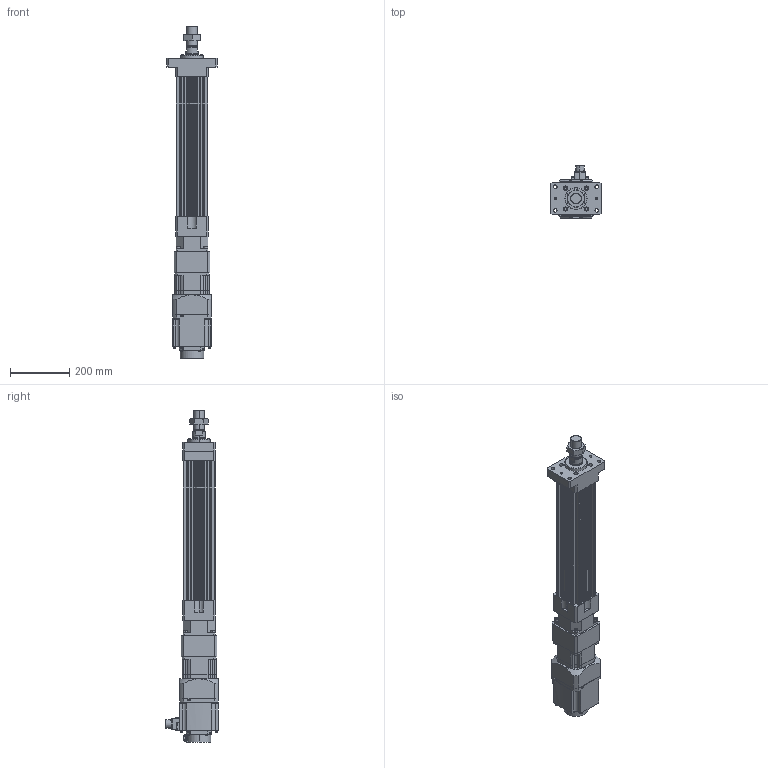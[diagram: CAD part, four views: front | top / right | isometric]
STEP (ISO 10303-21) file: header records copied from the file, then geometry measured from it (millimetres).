
FILE_DESCRIPTION (( 'STEP AP203' ), '1' );
FILE_NAME ('HES110NS(HS)-S300-W015G00-M-FM.STEP', '2023-01-28T06:08:52', ( 'tms' ), ( '' ), 'SwSTEP 2.0', 'SolidWorks 2013', '' );
FILE_SCHEMA (( 'CONFIG_CONTROL_DESIGN' ));
Length unit declared in the file: millimetre
Products named in the file (8): HG-SR152; M36X1.5P; AB1151; HES110-S300-G120-FM; HES110 ROD M ST300; P0401400706; HES110NS(HS)-S300-W015G00-M-FM; AB115-003[HG-SR152]
Assembly tree (7 placements, depth 3):
  HES110NS(HS)-S300-W015G00-M-FM
    HES110-S300-G120-FM
    HES110 ROD M ST300
    M36X1.5P
    AB115-003[HG-SR152]
      AB1151
      P0401400706
    HG-SR152
Bounding box: 170 x 177.49 x 1121.5 mm (x, y, z)
Volume: 7342540.5 mm3; surface area: 997851.6 mm2
Topology: 4 solids, 15 shells, 1170 faces, 2958 edges, 1925 vertices
Faces by surface type: plane 559, cylinder 525, cone 74, bspline 8, torus 4
Entity records: 36974 total; most frequent: CARTESIAN_POINT 7028, DIRECTION 6389, ORIENTED_EDGE 5864, EDGE_CURVE 2942, AXIS2_PLACEMENT_3D 2346, VERTEX_POINT 1925, VECTOR 1697, LINE 1697
